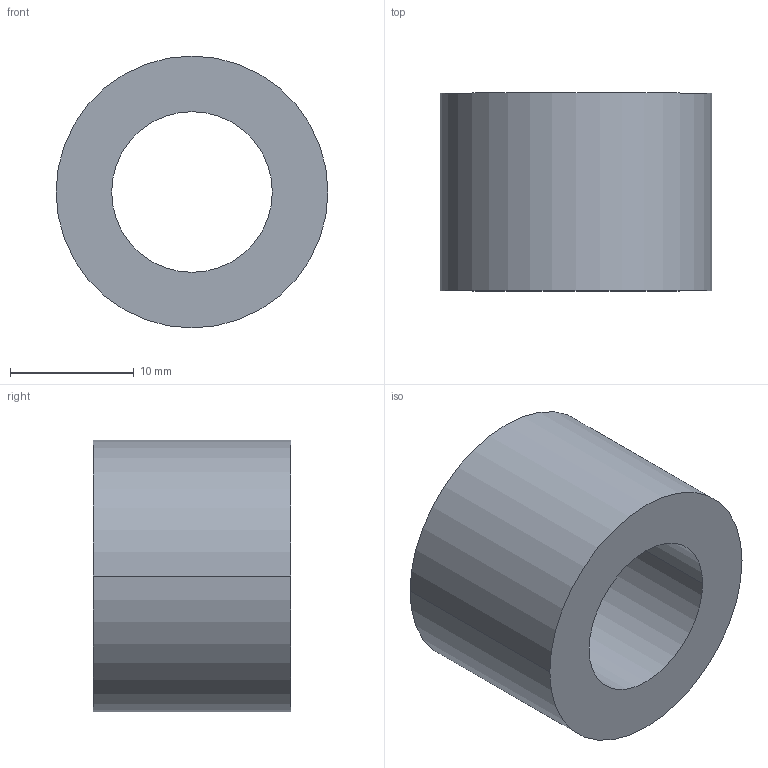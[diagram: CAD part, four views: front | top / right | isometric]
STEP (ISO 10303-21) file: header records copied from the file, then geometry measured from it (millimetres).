
FILE_DESCRIPTION (( 'STEP AP203' ), '1' );
FILE_NAME ('30800.WPP22F13.0.step', '2019-01-23T22:40:37', ( '' ), ( '' ), 'SwSTEP 2.0', 'SolidWorks 2017', '' );
FILE_SCHEMA (( 'CONFIG_CONTROL_DESIGN' ));
Length unit declared in the file: millimetre
Products named in the file (1): 30800.WPP22F13.0
Bounding box: 22 x 16 x 22 mm (x, y, z)
Volume: 3920.9 mm3; surface area: 2220.8 mm2
Topology: 1 solids, 1 shells, 8 faces, 16 edges, 10 vertices
Faces by surface type: cylinder 4, torus 2, plane 2
Entity records: 297 total; most frequent: DIRECTION 46, CARTESIAN_POINT 35, ORIENTED_EDGE 32, AXIS2_PLACEMENT_3D 21, EDGE_CURVE 16, CIRCLE 12, VERTEX_POINT 10, EDGE_LOOP 10
